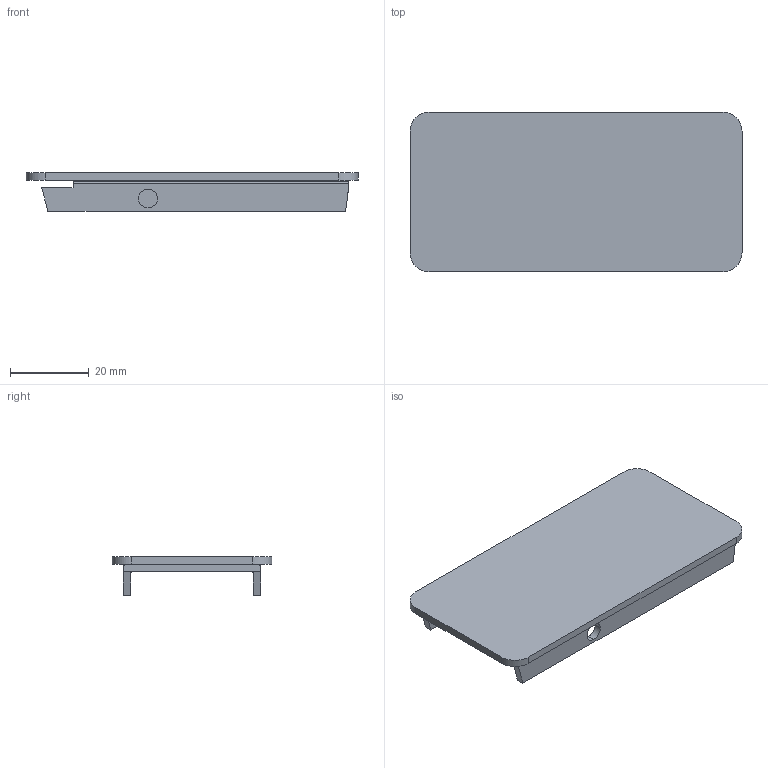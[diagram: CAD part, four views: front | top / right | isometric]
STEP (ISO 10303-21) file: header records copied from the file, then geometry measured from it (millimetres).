
FILE_DESCRIPTION(('TurboCAD Mac Pro'),'Build 980');
FILE_NAME('P5280W.stp',' ',(''),(''),'ACIS Interop','IMSI','TurboCAD Mac Pro BY IMSI, INCORPORATED');
FILE_SCHEMA(('automotive_design'));
Length unit declared in the file: inch
Products named in the file (1): 1
Bounding box: 84.13 x 40.48 x 9.84 mm (x, y, z)
Volume: 17105.4 mm3; surface area: 8898 mm2
Topology: 1 solids, 1 shells, 42 faces, 122 edges, 78 vertices
Faces by surface type: plane 22, bspline 12, cylinder 8
Entity records: 1728 total; most frequent: CARTESIAN_POINT 386, ORIENTED_EDGE 228, DIRECTION 166, EDGE_CURVE 114, VERTEX_POINT 74, LINE 74, VECTOR 74, AXIS2_PLACEMENT_3D 46
